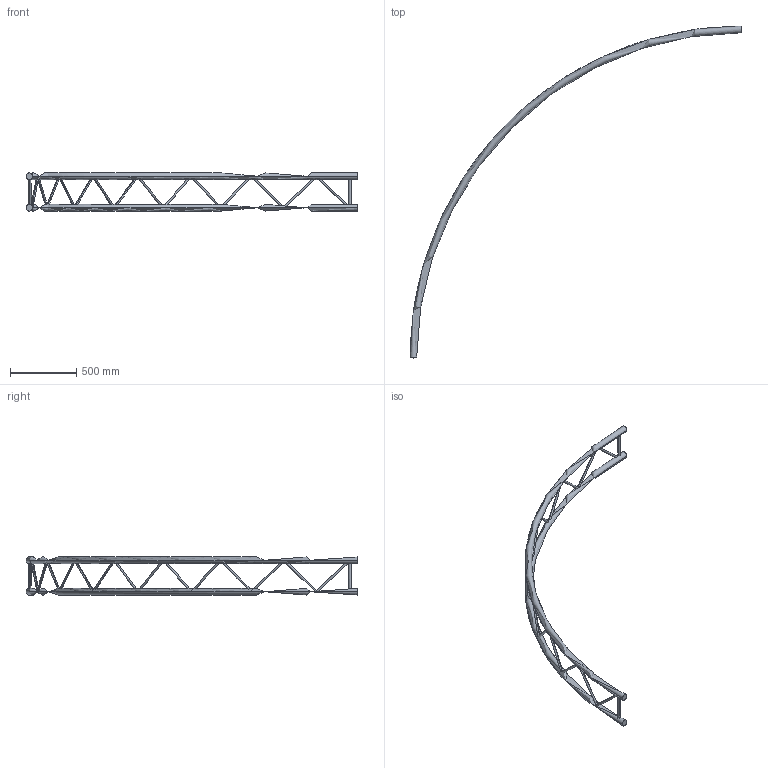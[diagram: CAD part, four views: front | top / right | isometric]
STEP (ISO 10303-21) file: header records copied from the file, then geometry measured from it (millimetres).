
FILE_DESCRIPTION (( 'STEP AP203' ), '1' );
FILE_NAME ('EXC29500V.STEP', '2009-10-26T09:20:10', ( 'CEDIA' ), ( 'CEDIA INDUSTRIE' ), 'SwSTEP 2.0', 'SolidWorks 2009', '' );
FILE_SCHEMA (( 'CONFIG_CONTROL_DESIGN' ));
Length unit declared in the file: millimetre
Products named in the file (1): EXC29500V
Bounding box: 2500 x 2500 x 287 mm (x, y, z)
Volume: 16279456.9 mm3; surface area: 1478989 mm2
Topology: 2 solids, 2 shells, 59 faces, 148 edges, 94 vertices
Faces by surface type: cylinder 34, plane 21, torus 4
Entity records: 3437 total; most frequent: CARTESIAN_POINT 2019, ORIENTED_EDGE 296, DIRECTION 254, EDGE_CURVE 148, AXIS2_PLACEMENT_3D 106, VERTEX_POINT 94, EDGE_LOOP 76, ADVANCED_FACE 59
